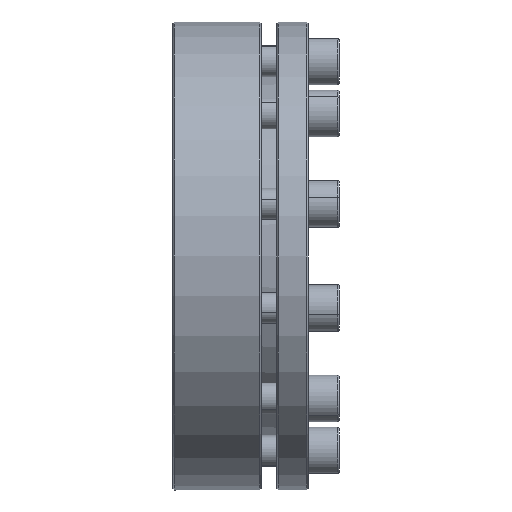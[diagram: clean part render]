
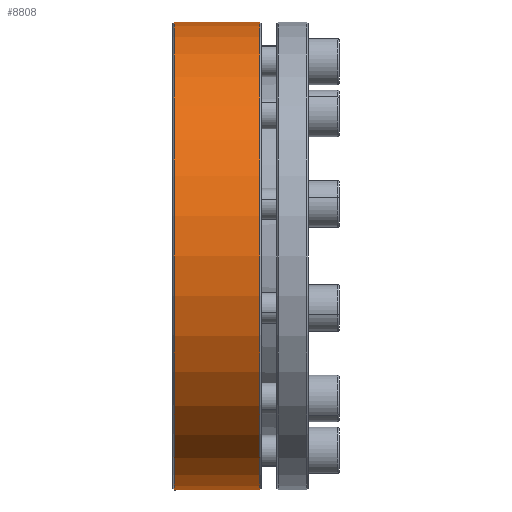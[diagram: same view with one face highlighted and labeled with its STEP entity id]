
A CAD part, front view. The second image highlights one B-rep face of the part: STEP entity #8808.
In plain terms, the highlighted cylindrical face has radius 90 mm (diameter 180 mm), a partial arc.
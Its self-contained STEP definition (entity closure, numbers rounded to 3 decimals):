
#2664=DIRECTION('',(1.,0.,0.));
#2665=VECTOR('',#2664,33.);
#2666=CARTESIAN_POINT('',(-51.5,89.987,1.5));
#2667=LINE('',#2666,#2665);
#2671=DIRECTION('',(1.,0.,0.));
#2672=VECTOR('',#2671,33.);
#2673=CARTESIAN_POINT('',(-51.5,89.987,-1.5));
#2674=LINE('',#2673,#2672);
#2710=CARTESIAN_POINT('',(-51.5,0.,
0.));
#2711=DIRECTION('',(1.,0.,0.));
#2712=DIRECTION('',(0.,1.,0.017));
#2713=AXIS2_PLACEMENT_3D('',#2710,#2711,#2712);
#3704=CARTESIAN_POINT('',(-18.5,0.,
0.));
#3705=DIRECTION('',(-1.,0.,0.));
#3706=DIRECTION('',(0.,1.,-0.017));
#3707=AXIS2_PLACEMENT_3D('',#3704,#3705,#3706);
#6276=CARTESIAN_POINT('',(-51.5,89.987,-1.5));
#6277=CARTESIAN_POINT('',(-18.5,89.987,-1.5));
#6278=VERTEX_POINT('',#6276);
#6279=VERTEX_POINT('',#6277);
#6284=CARTESIAN_POINT('',(-51.5,89.987,1.5));
#6285=CARTESIAN_POINT('',(-18.5,89.987,1.5));
#6286=VERTEX_POINT('',#6284);
#6287=VERTEX_POINT('',#6285);
#8795=CARTESIAN_POINT('',(0.,0.,0.));
#8796=DIRECTION('',(1.,0.,0.));
#8797=DIRECTION('',(0.,0.,-1.));
#8798=AXIS2_PLACEMENT_3D('',#8795,#8796,#8797);
#8799=CYLINDRICAL_SURFACE('',#8798,90.);
#8801=ORIENTED_EDGE('',*,*,#8800,.F.);
#8802=ORIENTED_EDGE('',*,*,#8755,.T.);
#8804=ORIENTED_EDGE('',*,*,#8803,.F.);
#8805=ORIENTED_EDGE('',*,*,#8690,.F.);
#8806=EDGE_LOOP('',(#8801,#8802,#8804,#8805));
#8807=FACE_OUTER_BOUND('',#8806,.F.);
#8808=ADVANCED_FACE('',(#8807),#8799,.T.);
#2714=CIRCLE('',#2713,90.);
#3708=CIRCLE('',#3707,90.);
#8690=EDGE_CURVE('',#6278,#6279,#2674,.T.);
#8755=EDGE_CURVE('',#6286,#6287,#2667,.T.);
#8800=EDGE_CURVE('',#6286,#6278,#2714,.T.);
#8803=EDGE_CURVE('',#6279,#6287,#3708,.T.);
